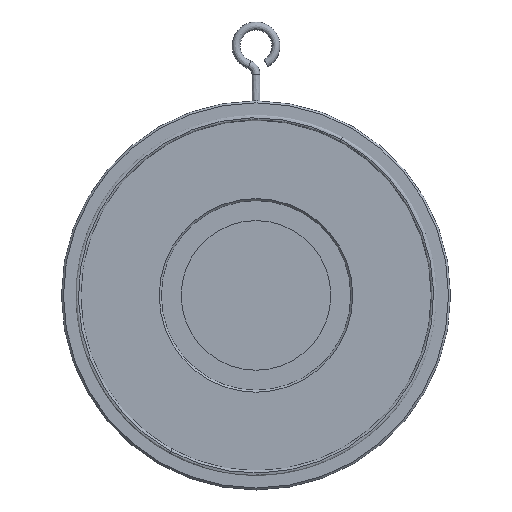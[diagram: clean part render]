
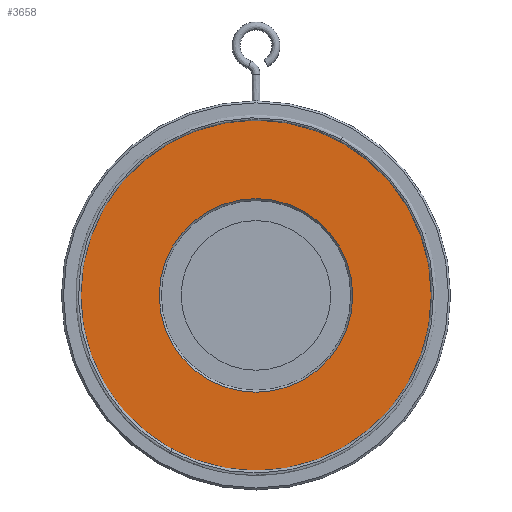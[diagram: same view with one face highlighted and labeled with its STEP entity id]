
A CAD part, left-side view. The second image highlights one B-rep face of the part: STEP entity #3658.
In plain terms, the highlighted planar face has unit normal (-1, 0, 0).
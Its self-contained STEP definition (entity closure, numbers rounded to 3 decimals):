
#178 = AXIS2_PLACEMENT_3D ( 'NONE', #8019, #6548, #2142 ) ;
#300 = DIRECTION ( 'NONE',  ( 1., 0., 0. ) ) ;
#427 = CARTESIAN_POINT ( 'NONE',  ( -8., 0., 0. ) ) ;
#453 = DIRECTION ( 'NONE',  ( 1., 0., 0. ) ) ;
#485 = DIRECTION ( 'NONE',  ( 0., 0., 1. ) ) ;
#910 = ORIENTED_EDGE ( 'NONE', *, *, #1699, .F. ) ;
#1039 = CARTESIAN_POINT ( 'NONE',  ( -8., 0., 0. ) ) ;
#1066 = AXIS2_PLACEMENT_3D ( 'NONE', #1883, #1911, #1942 ) ;
#1143 = ORIENTED_EDGE ( 'NONE', *, *, #8810, .T. ) ;
#1153 = CIRCLE ( 'NONE', #9162, 87.853 ) ;
#1160 = EDGE_LOOP ( 'NONE', ( #1143, #4793 ) ) ;
#1422 = PLANE ( 'NONE',  #178 ) ;
#1699 = EDGE_CURVE ( 'NONE', #7408, #8469, #1153, .T. ) ;
#1765 = EDGE_CURVE ( 'NONE', #2521, #7618, #8290, .T. ) ;
#1780 = DIRECTION ( 'NONE',  ( 0., 0., 1. ) ) ;
#1883 = CARTESIAN_POINT ( 'NONE',  ( -8., 0., 0. ) ) ;
#1911 = DIRECTION ( 'NONE',  ( 1., 0., 0. ) ) ;
#1942 = DIRECTION ( 'NONE',  ( 0., 0., 1. ) ) ;
#2142 = DIRECTION ( 'NONE',  ( 0., 0., -1. ) ) ;
#2481 = CARTESIAN_POINT ( 'NONE',  ( -8., 0., 87.853 ) ) ;
#2521 = VERTEX_POINT ( 'NONE', #6845 ) ;
#3230 = CIRCLE ( 'NONE', #7215, 48.5 ) ;
#3658 = ADVANCED_FACE ( 'NONE', ( #4101, #7803 ), #1422, .F. ) ;
#4091 = CIRCLE ( 'NONE', #6287, 87.853 ) ;
#4101 = FACE_BOUND ( 'NONE', #1160, .T. ) ;
#4270 = CARTESIAN_POINT ( 'NONE',  ( -8., 0., -87.853 ) ) ;
#4497 = EDGE_CURVE ( 'NONE', #8469, #7408, #4091, .T. ) ;
#4646 = CARTESIAN_POINT ( 'NONE',  ( -8., 0., 0. ) ) ;
#4793 = ORIENTED_EDGE ( 'NONE', *, *, #1765, .T. ) ;
#5392 = DIRECTION ( 'NONE',  ( 0., 0., 1. ) ) ;
#6177 = DIRECTION ( 'NONE',  ( 1., 0., 0. ) ) ;
#6287 = AXIS2_PLACEMENT_3D ( 'NONE', #4646, #300, #5392 ) ;
#6508 = CARTESIAN_POINT ( 'NONE',  ( -8., 0., 48.5 ) ) ;
#6531 = ORIENTED_EDGE ( 'NONE', *, *, #4497, .F. ) ;
#6548 = DIRECTION ( 'NONE',  ( 1., 0., 0. ) ) ;
#6634 = EDGE_LOOP ( 'NONE', ( #910, #6531 ) ) ;
#6845 = CARTESIAN_POINT ( 'NONE',  ( -8., 0., -48.5 ) ) ;
#7215 = AXIS2_PLACEMENT_3D ( 'NONE', #1039, #6177, #1780 ) ;
#7408 = VERTEX_POINT ( 'NONE', #2481 ) ;
#7618 = VERTEX_POINT ( 'NONE', #6508 ) ;
#7803 = FACE_OUTER_BOUND ( 'NONE', #6634, .T. ) ;
#8019 = CARTESIAN_POINT ( 'NONE',  ( -8., 0., 0. ) ) ;
#8290 = CIRCLE ( 'NONE', #1066, 48.5 ) ;
#8469 = VERTEX_POINT ( 'NONE', #4270 ) ;
#8810 = EDGE_CURVE ( 'NONE', #7618, #2521, #3230, .T. ) ;
#9162 = AXIS2_PLACEMENT_3D ( 'NONE', #427, #453, #485 ) ;
